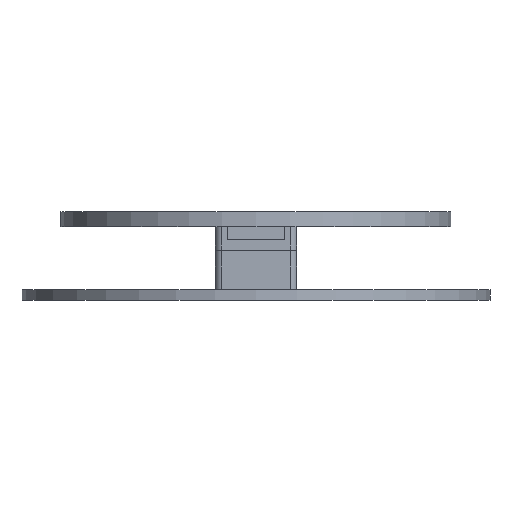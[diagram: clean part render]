
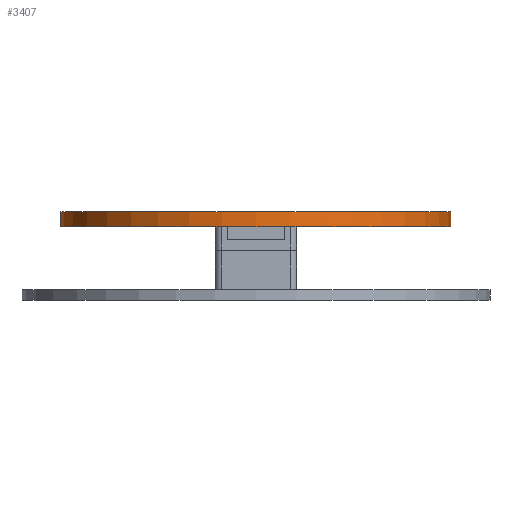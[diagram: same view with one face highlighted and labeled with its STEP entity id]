
A CAD part, front view. The second image highlights one B-rep face of the part: STEP entity #3407.
In plain terms, the highlighted cylindrical face has radius 45 mm (diameter 90 mm), a full revolution.
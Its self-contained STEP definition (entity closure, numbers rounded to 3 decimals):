
#1497 = PLANE('',#1498);
#1498 = AXIS2_PLACEMENT_3D('',#1499,#1500,#1501);
#1499 = CARTESIAN_POINT('',(0.,16.5,17.));
#1500 = DIRECTION('',(0.,0.,1.));
#1501 = DIRECTION('',(1.,0.,-0.));
#2402 = EDGE_CURVE('',#2403,#2403,#2405,.T.);
#2403 = VERTEX_POINT('',#2404);
#2404 = CARTESIAN_POINT('',(45.,16.5,17.));
#2405 = SURFACE_CURVE('',#2406,(#2411,#2418),.PCURVE_S1.);
#2406 = CIRCLE('',#2407,45.);
#2407 = AXIS2_PLACEMENT_3D('',#2408,#2409,#2410);
#2408 = CARTESIAN_POINT('',(0.,16.5,17.));
#2409 = DIRECTION('',(0.,0.,1.));
#2410 = DIRECTION('',(1.,0.,0.));
#2411 = PCURVE('',#1497,#2412);
#2412 = DEFINITIONAL_REPRESENTATION('',(#2413),#2417);
#2413 = CIRCLE('',#2414,45.);
#2414 = AXIS2_PLACEMENT_2D('',#2415,#2416);
#2415 = CARTESIAN_POINT('',(0.,0.));
#2416 = DIRECTION('',(1.,0.));
#2417 = ( GEOMETRIC_REPRESENTATION_CONTEXT(2) 
PARAMETRIC_REPRESENTATION_CONTEXT() REPRESENTATION_CONTEXT('2D SPACE',''
  ) );
#2418 = PCURVE('',#2419,#2424);
#2419 = CYLINDRICAL_SURFACE('',#2420,45.);
#2420 = AXIS2_PLACEMENT_3D('',#2421,#2422,#2423);
#2421 = CARTESIAN_POINT('',(0.,16.5,17.));
#2422 = DIRECTION('',(-0.,-0.,-1.));
#2423 = DIRECTION('',(1.,0.,0.));
#2424 = DEFINITIONAL_REPRESENTATION('',(#2425),#2429);
#2425 = LINE('',#2426,#2427);
#2426 = CARTESIAN_POINT('',(-0.,0.));
#2427 = VECTOR('',#2428,1.);
#2428 = DIRECTION('',(-1.,0.));
#2429 = ( GEOMETRIC_REPRESENTATION_CONTEXT(2) 
PARAMETRIC_REPRESENTATION_CONTEXT() REPRESENTATION_CONTEXT('2D SPACE',''
  ) );
#3407 = ADVANCED_FACE('',(#3408),#2419,.T.);
#3408 = FACE_BOUND('',#3409,.F.);
#3409 = EDGE_LOOP('',(#3410,#3433,#3460,#3461));
#3410 = ORIENTED_EDGE('',*,*,#3411,.T.);
#3411 = EDGE_CURVE('',#2403,#3412,#3414,.T.);
#3412 = VERTEX_POINT('',#3413);
#3413 = CARTESIAN_POINT('',(45.,16.5,20.5));
#3414 = SEAM_CURVE('',#3415,(#3419,#3426),.PCURVE_S1.);
#3415 = LINE('',#3416,#3417);
#3416 = CARTESIAN_POINT('',(45.,16.5,17.));
#3417 = VECTOR('',#3418,1.);
#3418 = DIRECTION('',(0.,0.,1.));
#3419 = PCURVE('',#2419,#3420);
#3420 = DEFINITIONAL_REPRESENTATION('',(#3421),#3425);
#3421 = LINE('',#3422,#3423);
#3422 = CARTESIAN_POINT('',(-0.,0.));
#3423 = VECTOR('',#3424,1.);
#3424 = DIRECTION('',(-0.,-1.));
#3425 = ( GEOMETRIC_REPRESENTATION_CONTEXT(2) 
PARAMETRIC_REPRESENTATION_CONTEXT() REPRESENTATION_CONTEXT('2D SPACE',''
  ) );
#3426 = PCURVE('',#2419,#3427);
#3427 = DEFINITIONAL_REPRESENTATION('',(#3428),#3432);
#3428 = LINE('',#3429,#3430);
#3429 = CARTESIAN_POINT('',(-6.283,0.));
#3430 = VECTOR('',#3431,1.);
#3431 = DIRECTION('',(-0.,-1.));
#3432 = ( GEOMETRIC_REPRESENTATION_CONTEXT(2) 
PARAMETRIC_REPRESENTATION_CONTEXT() REPRESENTATION_CONTEXT('2D SPACE',''
  ) );
#3433 = ORIENTED_EDGE('',*,*,#3434,.T.);
#3434 = EDGE_CURVE('',#3412,#3412,#3435,.T.);
#3435 = SURFACE_CURVE('',#3436,(#3441,#3448),.PCURVE_S1.);
#3436 = CIRCLE('',#3437,45.);
#3437 = AXIS2_PLACEMENT_3D('',#3438,#3439,#3440);
#3438 = CARTESIAN_POINT('',(0.,16.5,20.5));
#3439 = DIRECTION('',(0.,0.,1.));
#3440 = DIRECTION('',(1.,0.,0.));
#3441 = PCURVE('',#2419,#3442);
#3442 = DEFINITIONAL_REPRESENTATION('',(#3443),#3447);
#3443 = LINE('',#3444,#3445);
#3444 = CARTESIAN_POINT('',(-0.,-3.5));
#3445 = VECTOR('',#3446,1.);
#3446 = DIRECTION('',(-1.,0.));
#3447 = ( GEOMETRIC_REPRESENTATION_CONTEXT(2) 
PARAMETRIC_REPRESENTATION_CONTEXT() REPRESENTATION_CONTEXT('2D SPACE',''
  ) );
#3448 = PCURVE('',#3449,#3454);
#3449 = PLANE('',#3450);
#3450 = AXIS2_PLACEMENT_3D('',#3451,#3452,#3453);
#3451 = CARTESIAN_POINT('',(0.,16.5,20.5));
#3452 = DIRECTION('',(0.,0.,1.));
#3453 = DIRECTION('',(1.,0.,-0.));
#3454 = DEFINITIONAL_REPRESENTATION('',(#3455),#3459);
#3455 = CIRCLE('',#3456,45.);
#3456 = AXIS2_PLACEMENT_2D('',#3457,#3458);
#3457 = CARTESIAN_POINT('',(0.,0.));
#3458 = DIRECTION('',(1.,0.));
#3459 = ( GEOMETRIC_REPRESENTATION_CONTEXT(2) 
PARAMETRIC_REPRESENTATION_CONTEXT() REPRESENTATION_CONTEXT('2D SPACE',''
  ) );
#3460 = ORIENTED_EDGE('',*,*,#3411,.F.);
#3461 = ORIENTED_EDGE('',*,*,#2402,.F.);
